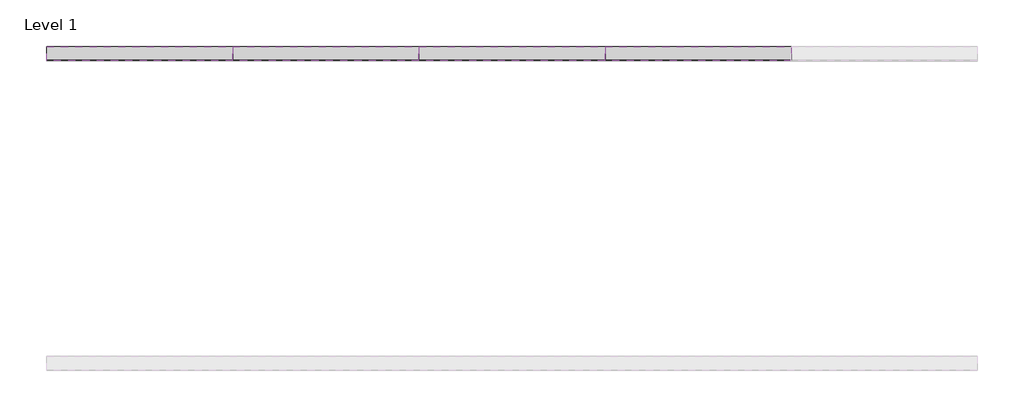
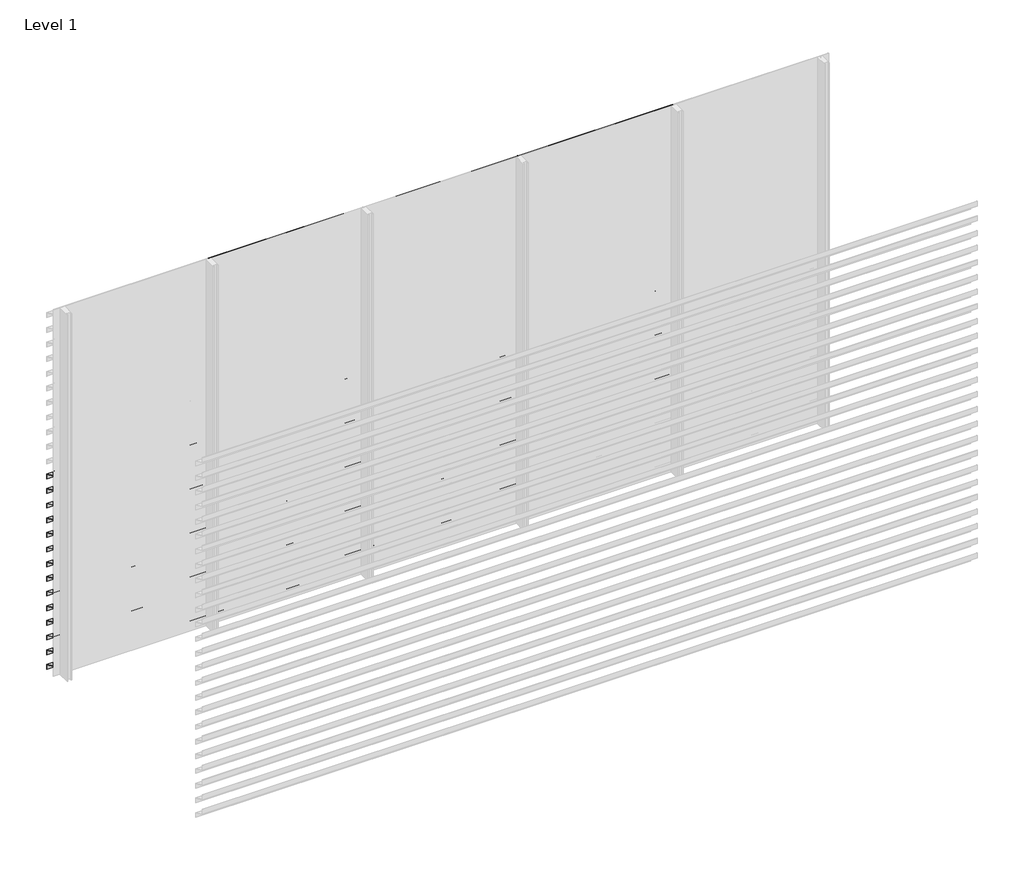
# One storey, part 31 of 46: 85 proxies.
"""IFC4 building model written with IfcOpenShell, lengths in millimetres."""

from ifc_helpers import new_model, si_unit, frame, origin, place, context, project, spatial, polyline, outline, extrude, element, save

model = new_model("IFC4")

# Units and contexts
model_context = context("Model", 3, world=origin())
ifc_project = project(units=[si_unit("LENGTHUNIT", "METRE", prefix="MILLI")], contexts=[model_context])

# Site, building, storey
site = spatial("IfcSite", under=ifc_project)
building = spatial("IfcBuilding", under=site)
storey = spatial("IfcBuildingStorey", under=building, Name="Level 1", Elevation=0.0)

# Proxies
placement = place(None, origin())
element("IfcBuildingElementProxy", 1, Name="Wall Sweeps", at=placement, inside=storey, context=model_context, shape_type="SweptSolid", body=[
    extrude(outline(polyline([(51573.0540136, 1600.0), (51573.0540136, 1560.0), (51571.0540136, 1561.349017), (51571.0540136, 1598.7258595), (51483.0540136, 1639.7609334), (51483.0540136, 1680.0), (51485.0540136, 1680.0), (51485.0540136, 1641.0350739), (51573.0540136, 1600.0)])), frame((466.6208097, 0.0, 0.0), z_axis=(1.0, 0.0, 0.0), x_axis=(0.0, 1.0, 0.0)), (0.0, 0.0, 1.0), 1200.0000002),
])
element("IfcBuildingElementProxy", 2, Name="Wall Sweeps", at=placement, inside=storey, context=model_context, shape_type="SweptSolid", body=[
    extrude(outline(polyline([(51573.0540136, 1480.0), (51573.0540136, 1440.0), (51571.0540136, 1441.349017), (51571.0540136, 1478.7258595), (51483.0540136, 1519.7609334), (51483.0540136, 1560.0), (51485.0540136, 1560.0), (51485.0540136, 1521.0350739), (51573.0540136, 1480.0)])), frame((466.6208097, 0.0, 0.0), z_axis=(1.0, 0.0, 0.0), x_axis=(0.0, 1.0, 0.0)), (0.0, 0.0, 1.0), 1200.0000002),
])
element("IfcBuildingElementProxy", 3, Name="Wall Sweeps", at=placement, inside=storey, context=model_context, shape_type="SweptSolid", body=[
    extrude(outline(polyline([(51573.0540136, 1360.0), (51573.0540136, 1320.0), (51571.0540136, 1321.349017), (51571.0540136, 1358.7258595), (51483.0540136, 1399.7609334), (51483.0540136, 1440.0), (51485.0540136, 1440.0), (51485.0540136, 1401.0350739), (51573.0540136, 1360.0)])), frame((466.6208097, 0.0, 0.0), z_axis=(1.0, 0.0, 0.0), x_axis=(0.0, 1.0, 0.0)), (0.0, 0.0, 1.0), 1200.0000002),
])
element("IfcBuildingElementProxy", 4, Name="Wall Sweeps", at=placement, inside=storey, context=model_context, shape_type="SweptSolid", body=[
    extrude(outline(polyline([(51573.0540136, 1240.0), (51573.0540136, 1200.0), (51571.0540136, 1201.349017), (51571.0540136, 1238.7258595), (51483.0540136, 1279.7609334), (51483.0540136, 1320.0), (51485.0540136, 1320.0), (51485.0540136, 1281.0350739), (51573.0540136, 1240.0)])), frame((466.6208097, 0.0, 0.0), z_axis=(1.0, 0.0, 0.0), x_axis=(0.0, 1.0, 0.0)), (0.0, 0.0, 1.0), 1200.0000002),
])
element("IfcBuildingElementProxy", 5, Name="Wall Sweeps", at=placement, inside=storey, context=model_context, shape_type="SweptSolid", body=[
    extrude(outline(polyline([(51573.0540136, 1120.0), (51573.0540136, 1080.0), (51571.0540136, 1081.349017), (51571.0540136, 1118.7258595), (51483.0540136, 1159.7609334), (51483.0540136, 1200.0), (51485.0540136, 1200.0), (51485.0540136, 1161.0350739), (51573.0540136, 1120.0)])), frame((466.6208097, 0.0, 0.0), z_axis=(1.0, 0.0, 0.0), x_axis=(0.0, 1.0, 0.0)), (0.0, 0.0, 1.0), 1200.0000002),
])
element("IfcBuildingElementProxy", 6, Name="Wall Sweeps", at=placement, inside=storey, context=model_context, shape_type="SweptSolid", body=[
    extrude(outline(polyline([(51573.0540136, 1000.0), (51573.0540136, 960.0), (51571.0540136, 961.349017), (51571.0540136, 998.7258595), (51483.0540136, 1039.7609334), (51483.0540136, 1080.0), (51485.0540136, 1080.0), (51485.0540136, 1041.0350739), (51573.0540136, 1000.0)])), frame((466.6208097, 0.0, 0.0), z_axis=(1.0, 0.0, 0.0), x_axis=(0.0, 1.0, 0.0)), (0.0, 0.0, 1.0), 1200.0000002),
])
element("IfcBuildingElementProxy", 7, Name="Wall Sweeps", at=placement, inside=storey, context=model_context, shape_type="SweptSolid", body=[
    extrude(outline(polyline([(51573.0540136, 880.0), (51573.0540136, 840.0), (51571.0540136, 841.349017), (51571.0540136, 878.7258595), (51483.0540136, 919.7609334), (51483.0540136, 960.0), (51485.0540136, 960.0), (51485.0540136, 921.0350739), (51573.0540136, 880.0)])), frame((466.6208097, 0.0, 0.0), z_axis=(1.0, 0.0, 0.0), x_axis=(0.0, 1.0, 0.0)), (0.0, 0.0, 1.0), 1200.0000002),
])
element("IfcBuildingElementProxy", 8, Name="Wall Sweeps", at=placement, inside=storey, context=model_context, shape_type="SweptSolid", body=[
    extrude(outline(polyline([(51573.0540136, 760.0), (51573.0540136, 720.0), (51571.0540136, 721.349017), (51571.0540136, 758.7258595), (51483.0540136, 799.7609334), (51483.0540136, 840.0), (51485.0540136, 840.0), (51485.0540136, 801.0350739), (51573.0540136, 760.0)])), frame((466.6208097, 0.0, 0.0), z_axis=(1.0, 0.0, 0.0), x_axis=(0.0, 1.0, 0.0)), (0.0, 0.0, 1.0), 1200.0000002),
])
element("IfcBuildingElementProxy", 9, Name="Wall Sweeps", at=placement, inside=storey, context=model_context, shape_type="SweptSolid", body=[
    extrude(outline(polyline([(51573.0540136, 640.0), (51573.0540136, 600.0), (51571.0540136, 601.349017), (51571.0540136, 638.7258595), (51483.0540136, 679.7609334), (51483.0540136, 720.0), (51485.0540136, 720.0), (51485.0540136, 681.0350739), (51573.0540136, 640.0)])), frame((466.6208097, 0.0, 0.0), z_axis=(1.0, 0.0, 0.0), x_axis=(0.0, 1.0, 0.0)), (0.0, 0.0, 1.0), 1200.0000002),
])
element("IfcBuildingElementProxy", 10, Name="Wall Sweeps", at=placement, inside=storey, context=model_context, shape_type="SweptSolid", body=[
    extrude(outline(polyline([(51573.0540136, 520.0), (51573.0540136, 480.0), (51571.0540136, 481.349017), (51571.0540136, 518.7258595), (51483.0540136, 559.7609334), (51483.0540136, 600.0), (51485.0540136, 600.0), (51485.0540136, 561.0350739), (51573.0540136, 520.0)])), frame((466.6208097, 0.0, 0.0), z_axis=(1.0, 0.0, 0.0), x_axis=(0.0, 1.0, 0.0)), (0.0, 0.0, 1.0), 1200.0000002),
])
element("IfcBuildingElementProxy", 11, Name="Wall Sweeps", at=placement, inside=storey, context=model_context, shape_type="SweptSolid", body=[
    extrude(outline(polyline([(51573.0540136, 400.0), (51573.0540136, 360.0), (51571.0540136, 361.349017), (51571.0540136, 398.7258595), (51483.0540136, 439.7609334), (51483.0540136, 480.0), (51485.0540136, 480.0), (51485.0540136, 441.0350739), (51573.0540136, 400.0)])), frame((466.6208097, 0.0, 0.0), z_axis=(1.0, 0.0, 0.0), x_axis=(0.0, 1.0, 0.0)), (0.0, 0.0, 1.0), 1200.0000002),
])
element("IfcBuildingElementProxy", 12, Name="Wall Sweeps", at=placement, inside=storey, context=model_context, shape_type="SweptSolid", body=[
    extrude(outline(polyline([(51573.0540136, 280.0), (51573.0540136, 240.0), (51571.0540136, 241.349017), (51571.0540136, 278.7258595), (51483.0540136, 319.7609334), (51483.0540136, 360.0), (51485.0540136, 360.0), (51485.0540136, 321.0350739), (51573.0540136, 280.0)])), frame((466.6208097, 0.0, 0.0), z_axis=(1.0, 0.0, 0.0), x_axis=(0.0, 1.0, 0.0)), (0.0, 0.0, 1.0), 1200.0000002),
])
element("IfcBuildingElementProxy", 13, Name="Wall Sweeps", at=placement, inside=storey, context=model_context, shape_type="SweptSolid", body=[
    extrude(outline(polyline([(51573.0540136, 160.0), (51573.0540136, 120.0), (51571.0540136, 121.349017), (51571.0540136, 158.7258595), (51483.0540136, 199.7609334), (51483.0540136, 240.0), (51485.0540136, 240.0), (51485.0540136, 201.0350739), (51573.0540136, 160.0)])), frame((466.6208097, 0.0, 0.0), z_axis=(1.0, 0.0, 0.0), x_axis=(0.0, 1.0, 0.0)), (0.0, 0.0, 1.0), 1200.0000002),
])
element("IfcBuildingElementProxy", 14, Name="Wall Sweeps", at=placement, inside=storey, context=model_context, shape_type="SweptSolid", body=[
    extrude(outline(polyline([(51573.0540136, 40.0), (51573.0540136, 0.0), (51571.0540136, 1.349017), (51571.0540136, 38.7258595), (51483.0540136, 79.7609334), (51483.0540136, 120.0), (51485.0540136, 120.0), (51485.0540136, 81.0350739), (51573.0540136, 40.0)])), frame((466.6208097, 0.0, 0.0), z_axis=(1.0, 0.0, 0.0), x_axis=(0.0, 1.0, 0.0)), (0.0, 0.0, 1.0), 1200.0000002),
])
element("IfcBuildingElementProxy", 15, Name="Wall Sweeps", at=placement, inside=storey, context=model_context, shape_type="SweptSolid", body=[
    extrude(outline(polyline([(51573.0540136, 2920.0), (51573.0540136, 2880.0), (51571.0540136, 2881.349017), (51571.0540136, 2918.7258595), (51483.0540136, 2959.7609334), (51483.0540136, 3000.0), (51485.0540136, 3000.0), (51485.0540136, 2961.0350739), (51573.0540136, 2920.0)])), frame((1666.6208099, 0.0, 0.0), z_axis=(1.0, 0.0, 0.0), x_axis=(0.0, 1.0, 0.0)), (0.0, 0.0, 1.0), 1199.9999999),
])
element("IfcBuildingElementProxy", 16, Name="Wall Sweeps", at=placement, inside=storey, context=model_context, shape_type="SweptSolid", body=[
    extrude(outline(polyline([(51573.0540136, 2800.0), (51573.0540136, 2760.0), (51571.0540136, 2761.349017), (51571.0540136, 2798.7258595), (51483.0540136, 2839.7609334), (51483.0540136, 2880.0), (51485.0540136, 2880.0), (51485.0540136, 2841.0350739), (51573.0540136, 2800.0)])), frame((1666.6208099, 0.0, 0.0), z_axis=(1.0, 0.0, 0.0), x_axis=(0.0, 1.0, 0.0)), (0.0, 0.0, 1.0), 1199.9999999),
])
element("IfcBuildingElementProxy", 17, Name="Wall Sweeps", at=placement, inside=storey, context=model_context, shape_type="SweptSolid", body=[
    extrude(outline(polyline([(51573.0540136, 2680.0), (51573.0540136, 2640.0), (51571.0540136, 2641.349017), (51571.0540136, 2678.7258595), (51483.0540136, 2719.7609334), (51483.0540136, 2760.0), (51485.0540136, 2760.0), (51485.0540136, 2721.0350739), (51573.0540136, 2680.0)])), frame((1666.6208099, 0.0, 0.0), z_axis=(1.0, 0.0, 0.0), x_axis=(0.0, 1.0, 0.0)), (0.0, 0.0, 1.0), 1199.9999999),
])
element("IfcBuildingElementProxy", 18, Name="Wall Sweeps", at=placement, inside=storey, context=model_context, shape_type="SweptSolid", body=[
    extrude(outline(polyline([(51573.0540136, 2560.0), (51573.0540136, 2520.0), (51571.0540136, 2521.349017), (51571.0540136, 2558.7258595), (51483.0540136, 2599.7609334), (51483.0540136, 2640.0), (51485.0540136, 2640.0), (51485.0540136, 2601.0350739), (51573.0540136, 2560.0)])), frame((1666.6208099, 0.0, 0.0), z_axis=(1.0, 0.0, 0.0), x_axis=(0.0, 1.0, 0.0)), (0.0, 0.0, 1.0), 1199.9999999),
])
element("IfcBuildingElementProxy", 19, Name="Wall Sweeps", at=placement, inside=storey, context=model_context, shape_type="SweptSolid", body=[
    extrude(outline(polyline([(51573.0540136, 2440.0), (51573.0540136, 2400.0), (51571.0540136, 2401.349017), (51571.0540136, 2438.7258595), (51483.0540136, 2479.7609334), (51483.0540136, 2520.0), (51485.0540136, 2520.0), (51485.0540136, 2481.0350739), (51573.0540136, 2440.0)])), frame((1666.6208099, 0.0, 0.0), z_axis=(1.0, 0.0, 0.0), x_axis=(0.0, 1.0, 0.0)), (0.0, 0.0, 1.0), 1199.9999999),
])
element("IfcBuildingElementProxy", 20, Name="Wall Sweeps", at=placement, inside=storey, context=model_context, shape_type="SweptSolid", body=[
    extrude(outline(polyline([(51573.0540136, 2320.0), (51573.0540136, 2280.0), (51571.0540136, 2281.349017), (51571.0540136, 2318.7258595), (51483.0540136, 2359.7609334), (51483.0540136, 2400.0), (51485.0540136, 2400.0), (51485.0540136, 2361.0350739), (51573.0540136, 2320.0)])), frame((1666.6208099, 0.0, 0.0), z_axis=(1.0, 0.0, 0.0), x_axis=(0.0, 1.0, 0.0)), (0.0, 0.0, 1.0), 1199.9999999),
])
element("IfcBuildingElementProxy", 21, Name="Wall Sweeps", at=placement, inside=storey, context=model_context, shape_type="SweptSolid", body=[
    extrude(outline(polyline([(51573.0540136, 2200.0), (51573.0540136, 2160.0), (51571.0540136, 2161.349017), (51571.0540136, 2198.7258595), (51483.0540136, 2239.7609334), (51483.0540136, 2280.0), (51485.0540136, 2280.0), (51485.0540136, 2241.0350739), (51573.0540136, 2200.0)])), frame((1666.6208099, 0.0, 0.0), z_axis=(1.0, 0.0, 0.0), x_axis=(0.0, 1.0, 0.0)), (0.0, 0.0, 1.0), 1199.9999999),
])
element("IfcBuildingElementProxy", 22, Name="Wall Sweeps", at=placement, inside=storey, context=model_context, shape_type="SweptSolid", body=[
    extrude(outline(polyline([(51573.0540136, 2080.0), (51573.0540136, 2040.0), (51571.0540136, 2041.349017), (51571.0540136, 2078.7258595), (51483.0540136, 2119.7609334), (51483.0540136, 2160.0), (51485.0540136, 2160.0), (51485.0540136, 2121.0350739), (51573.0540136, 2080.0)])), frame((1666.6208099, 0.0, 0.0), z_axis=(1.0, 0.0, 0.0), x_axis=(0.0, 1.0, 0.0)), (0.0, 0.0, 1.0), 1199.9999999),
])
element("IfcBuildingElementProxy", 23, Name="Wall Sweeps", at=placement, inside=storey, context=model_context, shape_type="SweptSolid", body=[
    extrude(outline(polyline([(51573.0540136, 1960.0), (51573.0540136, 1920.0), (51571.0540136, 1921.349017), (51571.0540136, 1958.7258595), (51483.0540136, 1999.7609334), (51483.0540136, 2040.0), (51485.0540136, 2040.0), (51485.0540136, 2001.0350739), (51573.0540136, 1960.0)])), frame((1666.6208099, 0.0, 0.0), z_axis=(1.0, 0.0, 0.0), x_axis=(0.0, 1.0, 0.0)), (0.0, 0.0, 1.0), 1199.9999999),
])
element("IfcBuildingElementProxy", 24, Name="Wall Sweeps", at=placement, inside=storey, context=model_context, shape_type="SweptSolid", body=[
    extrude(outline(polyline([(51573.0540136, 1840.0), (51573.0540136, 1800.0), (51571.0540136, 1801.349017), (51571.0540136, 1838.7258595), (51483.0540136, 1879.7609334), (51483.0540136, 1920.0), (51485.0540136, 1920.0), (51485.0540136, 1881.0350739), (51573.0540136, 1840.0)])), frame((1666.6208099, 0.0, 0.0), z_axis=(1.0, 0.0, 0.0), x_axis=(0.0, 1.0, 0.0)), (0.0, 0.0, 1.0), 1199.9999999),
])
element("IfcBuildingElementProxy", 25, Name="Wall Sweeps", at=placement, inside=storey, context=model_context, shape_type="SweptSolid", body=[
    extrude(outline(polyline([(51573.0540136, 1720.0), (51573.0540136, 1680.0), (51571.0540136, 1681.349017), (51571.0540136, 1718.7258595), (51483.0540136, 1759.7609334), (51483.0540136, 1800.0), (51485.0540136, 1800.0), (51485.0540136, 1761.0350739), (51573.0540136, 1720.0)])), frame((1666.6208099, 0.0, 0.0), z_axis=(1.0, 0.0, 0.0), x_axis=(0.0, 1.0, 0.0)), (0.0, 0.0, 1.0), 1199.9999999),
])
element("IfcBuildingElementProxy", 26, Name="Wall Sweeps", at=placement, inside=storey, context=model_context, shape_type="SweptSolid", body=[
    extrude(outline(polyline([(51573.0540136, 1600.0), (51573.0540136, 1560.0), (51571.0540136, 1561.349017), (51571.0540136, 1598.7258595), (51483.0540136, 1639.7609334), (51483.0540136, 1680.0), (51485.0540136, 1680.0), (51485.0540136, 1641.0350739), (51573.0540136, 1600.0)])), frame((1666.6208099, 0.0, 0.0), z_axis=(1.0, 0.0, 0.0), x_axis=(0.0, 1.0, 0.0)), (0.0, 0.0, 1.0), 1199.9999999),
])
element("IfcBuildingElementProxy", 27, Name="Wall Sweeps", at=placement, inside=storey, context=model_context, shape_type="SweptSolid", body=[
    extrude(outline(polyline([(51573.0540136, 1480.0), (51573.0540136, 1440.0), (51571.0540136, 1441.349017), (51571.0540136, 1478.7258595), (51483.0540136, 1519.7609334), (51483.0540136, 1560.0), (51485.0540136, 1560.0), (51485.0540136, 1521.0350739), (51573.0540136, 1480.0)])), frame((1666.6208099, 0.0, 0.0), z_axis=(1.0, 0.0, 0.0), x_axis=(0.0, 1.0, 0.0)), (0.0, 0.0, 1.0), 1199.9999999),
])
element("IfcBuildingElementProxy", 28, Name="Wall Sweeps", at=placement, inside=storey, context=model_context, shape_type="SweptSolid", body=[
    extrude(outline(polyline([(51573.0540136, 1360.0), (51573.0540136, 1320.0), (51571.0540136, 1321.349017), (51571.0540136, 1358.7258595), (51483.0540136, 1399.7609334), (51483.0540136, 1440.0), (51485.0540136, 1440.0), (51485.0540136, 1401.0350739), (51573.0540136, 1360.0)])), frame((1666.6208099, 0.0, 0.0), z_axis=(1.0, 0.0, 0.0), x_axis=(0.0, 1.0, 0.0)), (0.0, 0.0, 1.0), 1199.9999999),
])
element("IfcBuildingElementProxy", 29, Name="Wall Sweeps", at=placement, inside=storey, context=model_context, shape_type="SweptSolid", body=[
    extrude(outline(polyline([(51573.0540136, 1240.0), (51573.0540136, 1200.0), (51571.0540136, 1201.349017), (51571.0540136, 1238.7258595), (51483.0540136, 1279.7609334), (51483.0540136, 1320.0), (51485.0540136, 1320.0), (51485.0540136, 1281.0350739), (51573.0540136, 1240.0)])), frame((1666.6208099, 0.0, 0.0), z_axis=(1.0, 0.0, 0.0), x_axis=(0.0, 1.0, 0.0)), (0.0, 0.0, 1.0), 1199.9999999),
])
element("IfcBuildingElementProxy", 30, Name="Wall Sweeps", at=placement, inside=storey, context=model_context, shape_type="SweptSolid", body=[
    extrude(outline(polyline([(51573.0540136, 1120.0), (51573.0540136, 1080.0), (51571.0540136, 1081.349017), (51571.0540136, 1118.7258595), (51483.0540136, 1159.7609334), (51483.0540136, 1200.0), (51485.0540136, 1200.0), (51485.0540136, 1161.0350739), (51573.0540136, 1120.0)])), frame((1666.6208099, 0.0, 0.0), z_axis=(1.0, 0.0, 0.0), x_axis=(0.0, 1.0, 0.0)), (0.0, 0.0, 1.0), 1199.9999999),
])
element("IfcBuildingElementProxy", 31, Name="Wall Sweeps", at=placement, inside=storey, context=model_context, shape_type="SweptSolid", body=[
    extrude(outline(polyline([(51573.0540136, 1000.0), (51573.0540136, 960.0), (51571.0540136, 961.349017), (51571.0540136, 998.7258595), (51483.0540136, 1039.7609334), (51483.0540136, 1080.0), (51485.0540136, 1080.0), (51485.0540136, 1041.0350739), (51573.0540136, 1000.0)])), frame((1666.6208099, 0.0, 0.0), z_axis=(1.0, 0.0, 0.0), x_axis=(0.0, 1.0, 0.0)), (0.0, 0.0, 1.0), 1199.9999999),
])
element("IfcBuildingElementProxy", 32, Name="Wall Sweeps", at=placement, inside=storey, context=model_context, shape_type="SweptSolid", body=[
    extrude(outline(polyline([(51573.0540136, 880.0), (51573.0540136, 840.0), (51571.0540136, 841.349017), (51571.0540136, 878.7258595), (51483.0540136, 919.7609334), (51483.0540136, 960.0), (51485.0540136, 960.0), (51485.0540136, 921.0350739), (51573.0540136, 880.0)])), frame((1666.6208099, 0.0, 0.0), z_axis=(1.0, 0.0, 0.0), x_axis=(0.0, 1.0, 0.0)), (0.0, 0.0, 1.0), 1199.9999999),
])
element("IfcBuildingElementProxy", 33, Name="Wall Sweeps", at=placement, inside=storey, context=model_context, shape_type="SweptSolid", body=[
    extrude(outline(polyline([(51573.0540136, 760.0), (51573.0540136, 720.0), (51571.0540136, 721.349017), (51571.0540136, 758.7258595), (51483.0540136, 799.7609334), (51483.0540136, 840.0), (51485.0540136, 840.0), (51485.0540136, 801.0350739), (51573.0540136, 760.0)])), frame((1666.6208099, 0.0, 0.0), z_axis=(1.0, 0.0, 0.0), x_axis=(0.0, 1.0, 0.0)), (0.0, 0.0, 1.0), 1199.9999999),
])
element("IfcBuildingElementProxy", 34, Name="Wall Sweeps", at=placement, inside=storey, context=model_context, shape_type="SweptSolid", body=[
    extrude(outline(polyline([(51573.0540136, 640.0), (51573.0540136, 600.0), (51571.0540136, 601.349017), (51571.0540136, 638.7258595), (51483.0540136, 679.7609334), (51483.0540136, 720.0), (51485.0540136, 720.0), (51485.0540136, 681.0350739), (51573.0540136, 640.0)])), frame((1666.6208099, 0.0, 0.0), z_axis=(1.0, 0.0, 0.0), x_axis=(0.0, 1.0, 0.0)), (0.0, 0.0, 1.0), 1199.9999999),
])
element("IfcBuildingElementProxy", 35, Name="Wall Sweeps", at=placement, inside=storey, context=model_context, shape_type="SweptSolid", body=[
    extrude(outline(polyline([(51573.0540136, 520.0), (51573.0540136, 480.0), (51571.0540136, 481.349017), (51571.0540136, 518.7258595), (51483.0540136, 559.7609334), (51483.0540136, 600.0), (51485.0540136, 600.0), (51485.0540136, 561.0350739), (51573.0540136, 520.0)])), frame((1666.6208099, 0.0, 0.0), z_axis=(1.0, 0.0, 0.0), x_axis=(0.0, 1.0, 0.0)), (0.0, 0.0, 1.0), 1199.9999999),
])
element("IfcBuildingElementProxy", 36, Name="Wall Sweeps", at=placement, inside=storey, context=model_context, shape_type="SweptSolid", body=[
    extrude(outline(polyline([(51573.0540136, 400.0), (51573.0540136, 360.0), (51571.0540136, 361.349017), (51571.0540136, 398.7258595), (51483.0540136, 439.7609334), (51483.0540136, 480.0), (51485.0540136, 480.0), (51485.0540136, 441.0350739), (51573.0540136, 400.0)])), frame((1666.6208099, 0.0, 0.0), z_axis=(1.0, 0.0, 0.0), x_axis=(0.0, 1.0, 0.0)), (0.0, 0.0, 1.0), 1199.9999999),
])
element("IfcBuildingElementProxy", 37, Name="Wall Sweeps", at=placement, inside=storey, context=model_context, shape_type="SweptSolid", body=[
    extrude(outline(polyline([(51573.0540136, 280.0), (51573.0540136, 240.0), (51571.0540136, 241.349017), (51571.0540136, 278.7258595), (51483.0540136, 319.7609334), (51483.0540136, 360.0), (51485.0540136, 360.0), (51485.0540136, 321.0350739), (51573.0540136, 280.0)])), frame((1666.6208099, 0.0, 0.0), z_axis=(1.0, 0.0, 0.0), x_axis=(0.0, 1.0, 0.0)), (0.0, 0.0, 1.0), 1199.9999999),
])
element("IfcBuildingElementProxy", 38, Name="Wall Sweeps", at=placement, inside=storey, context=model_context, shape_type="SweptSolid", body=[
    extrude(outline(polyline([(51573.0540136, 160.0), (51573.0540136, 120.0), (51571.0540136, 121.349017), (51571.0540136, 158.7258595), (51483.0540136, 199.7609334), (51483.0540136, 240.0), (51485.0540136, 240.0), (51485.0540136, 201.0350739), (51573.0540136, 160.0)])), frame((1666.6208099, 0.0, 0.0), z_axis=(1.0, 0.0, 0.0), x_axis=(0.0, 1.0, 0.0)), (0.0, 0.0, 1.0), 1199.9999999),
])
element("IfcBuildingElementProxy", 39, Name="Wall Sweeps", at=placement, inside=storey, context=model_context, shape_type="SweptSolid", body=[
    extrude(outline(polyline([(51573.0540136, 40.0), (51573.0540136, 0.0), (51571.0540136, 1.349017), (51571.0540136, 38.7258595), (51483.0540136, 79.7609334), (51483.0540136, 120.0), (51485.0540136, 120.0), (51485.0540136, 81.0350739), (51573.0540136, 40.0)])), frame((1666.6208099, 0.0, 0.0), z_axis=(1.0, 0.0, 0.0), x_axis=(0.0, 1.0, 0.0)), (0.0, 0.0, 1.0), 1199.9999999),
])
element("IfcBuildingElementProxy", 40, Name="Wall Sweeps", at=placement, inside=storey, context=model_context, shape_type="SweptSolid", body=[
    extrude(outline(polyline([(51573.0540136, 2920.0), (51573.0540136, 2880.0), (51571.0540136, 2881.349017), (51571.0540136, 2918.7258595), (51483.0540136, 2959.7609334), (51483.0540136, 3000.0), (51485.0540136, 3000.0), (51485.0540136, 2961.0350739), (51573.0540136, 2920.0)])), frame((2866.6208097, 0.0, 0.0), z_axis=(1.0, 0.0, 0.0), x_axis=(0.0, 1.0, 0.0)), (0.0, 0.0, 1.0), 1199.9999999),
])
element("IfcBuildingElementProxy", 41, Name="Wall Sweeps", at=placement, inside=storey, context=model_context, shape_type="SweptSolid", body=[
    extrude(outline(polyline([(51573.0540136, 2800.0), (51573.0540136, 2760.0), (51571.0540136, 2761.349017), (51571.0540136, 2798.7258595), (51483.0540136, 2839.7609334), (51483.0540136, 2880.0), (51485.0540136, 2880.0), (51485.0540136, 2841.0350739), (51573.0540136, 2800.0)])), frame((2866.6208097, 0.0, 0.0), z_axis=(1.0, 0.0, 0.0), x_axis=(0.0, 1.0, 0.0)), (0.0, 0.0, 1.0), 1199.9999999),
])
element("IfcBuildingElementProxy", 42, Name="Wall Sweeps", at=placement, inside=storey, context=model_context, shape_type="SweptSolid", body=[
    extrude(outline(polyline([(51573.0540136, 2680.0), (51573.0540136, 2640.0), (51571.0540136, 2641.349017), (51571.0540136, 2678.7258595), (51483.0540136, 2719.7609334), (51483.0540136, 2760.0), (51485.0540136, 2760.0), (51485.0540136, 2721.0350739), (51573.0540136, 2680.0)])), frame((2866.6208097, 0.0, 0.0), z_axis=(1.0, 0.0, 0.0), x_axis=(0.0, 1.0, 0.0)), (0.0, 0.0, 1.0), 1199.9999999),
])
element("IfcBuildingElementProxy", 43, Name="Wall Sweeps", at=placement, inside=storey, context=model_context, shape_type="SweptSolid", body=[
    extrude(outline(polyline([(51573.0540136, 2560.0), (51573.0540136, 2520.0), (51571.0540136, 2521.349017), (51571.0540136, 2558.7258595), (51483.0540136, 2599.7609334), (51483.0540136, 2640.0), (51485.0540136, 2640.0), (51485.0540136, 2601.0350739), (51573.0540136, 2560.0)])), frame((2866.6208097, 0.0, 0.0), z_axis=(1.0, 0.0, 0.0), x_axis=(0.0, 1.0, 0.0)), (0.0, 0.0, 1.0), 1199.9999999),
])
element("IfcBuildingElementProxy", 44, Name="Wall Sweeps", at=placement, inside=storey, context=model_context, shape_type="SweptSolid", body=[
    extrude(outline(polyline([(51573.0540136, 2440.0), (51573.0540136, 2400.0), (51571.0540136, 2401.349017), (51571.0540136, 2438.7258595), (51483.0540136, 2479.7609334), (51483.0540136, 2520.0), (51485.0540136, 2520.0), (51485.0540136, 2481.0350739), (51573.0540136, 2440.0)])), frame((2866.6208097, 0.0, 0.0), z_axis=(1.0, 0.0, 0.0), x_axis=(0.0, 1.0, 0.0)), (0.0, 0.0, 1.0), 1199.9999999),
])
element("IfcBuildingElementProxy", 45, Name="Wall Sweeps", at=placement, inside=storey, context=model_context, shape_type="SweptSolid", body=[
    extrude(outline(polyline([(51573.0540136, 2320.0), (51573.0540136, 2280.0), (51571.0540136, 2281.349017), (51571.0540136, 2318.7258595), (51483.0540136, 2359.7609334), (51483.0540136, 2400.0), (51485.0540136, 2400.0), (51485.0540136, 2361.0350739), (51573.0540136, 2320.0)])), frame((2866.6208097, 0.0, 0.0), z_axis=(1.0, 0.0, 0.0), x_axis=(0.0, 1.0, 0.0)), (0.0, 0.0, 1.0), 1199.9999999),
])
element("IfcBuildingElementProxy", 46, Name="Wall Sweeps", at=placement, inside=storey, context=model_context, shape_type="SweptSolid", body=[
    extrude(outline(polyline([(51573.0540136, 2200.0), (51573.0540136, 2160.0), (51571.0540136, 2161.349017), (51571.0540136, 2198.7258595), (51483.0540136, 2239.7609334), (51483.0540136, 2280.0), (51485.0540136, 2280.0), (51485.0540136, 2241.0350739), (51573.0540136, 2200.0)])), frame((2866.6208097, 0.0, 0.0), z_axis=(1.0, 0.0, 0.0), x_axis=(0.0, 1.0, 0.0)), (0.0, 0.0, 1.0), 1199.9999999),
])
element("IfcBuildingElementProxy", 47, Name="Wall Sweeps", at=placement, inside=storey, context=model_context, shape_type="SweptSolid", body=[
    extrude(outline(polyline([(51573.0540136, 2080.0), (51573.0540136, 2040.0), (51571.0540136, 2041.349017), (51571.0540136, 2078.7258595), (51483.0540136, 2119.7609334), (51483.0540136, 2160.0), (51485.0540136, 2160.0), (51485.0540136, 2121.0350739), (51573.0540136, 2080.0)])), frame((2866.6208097, 0.0, 0.0), z_axis=(1.0, 0.0, 0.0), x_axis=(0.0, 1.0, 0.0)), (0.0, 0.0, 1.0), 1199.9999999),
])
element("IfcBuildingElementProxy", 48, Name="Wall Sweeps", at=placement, inside=storey, context=model_context, shape_type="SweptSolid", body=[
    extrude(outline(polyline([(51573.0540136, 1960.0), (51573.0540136, 1920.0), (51571.0540136, 1921.349017), (51571.0540136, 1958.7258595), (51483.0540136, 1999.7609334), (51483.0540136, 2040.0), (51485.0540136, 2040.0), (51485.0540136, 2001.0350739), (51573.0540136, 1960.0)])), frame((2866.6208097, 0.0, 0.0), z_axis=(1.0, 0.0, 0.0), x_axis=(0.0, 1.0, 0.0)), (0.0, 0.0, 1.0), 1199.9999999),
])
element("IfcBuildingElementProxy", 49, Name="Wall Sweeps", at=placement, inside=storey, context=model_context, shape_type="SweptSolid", body=[
    extrude(outline(polyline([(51573.0540136, 1840.0), (51573.0540136, 1800.0), (51571.0540136, 1801.349017), (51571.0540136, 1838.7258595), (51483.0540136, 1879.7609334), (51483.0540136, 1920.0), (51485.0540136, 1920.0), (51485.0540136, 1881.0350739), (51573.0540136, 1840.0)])), frame((2866.6208097, 0.0, 0.0), z_axis=(1.0, 0.0, 0.0), x_axis=(0.0, 1.0, 0.0)), (0.0, 0.0, 1.0), 1199.9999999),
])
element("IfcBuildingElementProxy", 50, Name="Wall Sweeps", at=placement, inside=storey, context=model_context, shape_type="SweptSolid", body=[
    extrude(outline(polyline([(51573.0540136, 1720.0), (51573.0540136, 1680.0), (51571.0540136, 1681.349017), (51571.0540136, 1718.7258595), (51483.0540136, 1759.7609334), (51483.0540136, 1800.0), (51485.0540136, 1800.0), (51485.0540136, 1761.0350739), (51573.0540136, 1720.0)])), frame((2866.6208097, 0.0, 0.0), z_axis=(1.0, 0.0, 0.0), x_axis=(0.0, 1.0, 0.0)), (0.0, 0.0, 1.0), 1199.9999999),
])
element("IfcBuildingElementProxy", 51, Name="Wall Sweeps", at=placement, inside=storey, context=model_context, shape_type="SweptSolid", body=[
    extrude(outline(polyline([(51573.0540136, 1600.0), (51573.0540136, 1560.0), (51571.0540136, 1561.349017), (51571.0540136, 1598.7258595), (51483.0540136, 1639.7609334), (51483.0540136, 1680.0), (51485.0540136, 1680.0), (51485.0540136, 1641.0350739), (51573.0540136, 1600.0)])), frame((2866.6208097, 0.0, 0.0), z_axis=(1.0, 0.0, 0.0), x_axis=(0.0, 1.0, 0.0)), (0.0, 0.0, 1.0), 1199.9999999),
])
element("IfcBuildingElementProxy", 52, Name="Wall Sweeps", at=placement, inside=storey, context=model_context, shape_type="SweptSolid", body=[
    extrude(outline(polyline([(51573.0540136, 1480.0), (51573.0540136, 1440.0), (51571.0540136, 1441.349017), (51571.0540136, 1478.7258595), (51483.0540136, 1519.7609334), (51483.0540136, 1560.0), (51485.0540136, 1560.0), (51485.0540136, 1521.0350739), (51573.0540136, 1480.0)])), frame((2866.6208097, 0.0, 0.0), z_axis=(1.0, 0.0, 0.0), x_axis=(0.0, 1.0, 0.0)), (0.0, 0.0, 1.0), 1199.9999999),
])
element("IfcBuildingElementProxy", 53, Name="Wall Sweeps", at=placement, inside=storey, context=model_context, shape_type="SweptSolid", body=[
    extrude(outline(polyline([(51573.0540136, 1360.0), (51573.0540136, 1320.0), (51571.0540136, 1321.349017), (51571.0540136, 1358.7258595), (51483.0540136, 1399.7609334), (51483.0540136, 1440.0), (51485.0540136, 1440.0), (51485.0540136, 1401.0350739), (51573.0540136, 1360.0)])), frame((2866.6208097, 0.0, 0.0), z_axis=(1.0, 0.0, 0.0), x_axis=(0.0, 1.0, 0.0)), (0.0, 0.0, 1.0), 1199.9999999),
])
element("IfcBuildingElementProxy", 54, Name="Wall Sweeps", at=placement, inside=storey, context=model_context, shape_type="SweptSolid", body=[
    extrude(outline(polyline([(51573.0540136, 1240.0), (51573.0540136, 1200.0), (51571.0540136, 1201.349017), (51571.0540136, 1238.7258595), (51483.0540136, 1279.7609334), (51483.0540136, 1320.0), (51485.0540136, 1320.0), (51485.0540136, 1281.0350739), (51573.0540136, 1240.0)])), frame((2866.6208097, 0.0, 0.0), z_axis=(1.0, 0.0, 0.0), x_axis=(0.0, 1.0, 0.0)), (0.0, 0.0, 1.0), 1199.9999999),
])
element("IfcBuildingElementProxy", 55, Name="Wall Sweeps", at=placement, inside=storey, context=model_context, shape_type="SweptSolid", body=[
    extrude(outline(polyline([(51573.0540136, 1120.0), (51573.0540136, 1080.0), (51571.0540136, 1081.349017), (51571.0540136, 1118.7258595), (51483.0540136, 1159.7609334), (51483.0540136, 1200.0), (51485.0540136, 1200.0), (51485.0540136, 1161.0350739), (51573.0540136, 1120.0)])), frame((2866.6208097, 0.0, 0.0), z_axis=(1.0, 0.0, 0.0), x_axis=(0.0, 1.0, 0.0)), (0.0, 0.0, 1.0), 1199.9999999),
])
element("IfcBuildingElementProxy", 56, Name="Wall Sweeps", at=placement, inside=storey, context=model_context, shape_type="SweptSolid", body=[
    extrude(outline(polyline([(51573.0540136, 1000.0), (51573.0540136, 960.0), (51571.0540136, 961.349017), (51571.0540136, 998.7258595), (51483.0540136, 1039.7609334), (51483.0540136, 1080.0), (51485.0540136, 1080.0), (51485.0540136, 1041.0350739), (51573.0540136, 1000.0)])), frame((2866.6208097, 0.0, 0.0), z_axis=(1.0, 0.0, 0.0), x_axis=(0.0, 1.0, 0.0)), (0.0, 0.0, 1.0), 1199.9999999),
])
element("IfcBuildingElementProxy", 57, Name="Wall Sweeps", at=placement, inside=storey, context=model_context, shape_type="SweptSolid", body=[
    extrude(outline(polyline([(51573.0540136, 880.0), (51573.0540136, 840.0), (51571.0540136, 841.349017), (51571.0540136, 878.7258595), (51483.0540136, 919.7609334), (51483.0540136, 960.0), (51485.0540136, 960.0), (51485.0540136, 921.0350739), (51573.0540136, 880.0)])), frame((2866.6208097, 0.0, 0.0), z_axis=(1.0, 0.0, 0.0), x_axis=(0.0, 1.0, 0.0)), (0.0, 0.0, 1.0), 1199.9999999),
])
element("IfcBuildingElementProxy", 58, Name="Wall Sweeps", at=placement, inside=storey, context=model_context, shape_type="SweptSolid", body=[
    extrude(outline(polyline([(51573.0540136, 760.0), (51573.0540136, 720.0), (51571.0540136, 721.349017), (51571.0540136, 758.7258595), (51483.0540136, 799.7609334), (51483.0540136, 840.0), (51485.0540136, 840.0), (51485.0540136, 801.0350739), (51573.0540136, 760.0)])), frame((2866.6208097, 0.0, 0.0), z_axis=(1.0, 0.0, 0.0), x_axis=(0.0, 1.0, 0.0)), (0.0, 0.0, 1.0), 1199.9999999),
])
element("IfcBuildingElementProxy", 59, Name="Wall Sweeps", at=placement, inside=storey, context=model_context, shape_type="SweptSolid", body=[
    extrude(outline(polyline([(51573.0540136, 640.0), (51573.0540136, 600.0), (51571.0540136, 601.349017), (51571.0540136, 638.7258595), (51483.0540136, 679.7609334), (51483.0540136, 720.0), (51485.0540136, 720.0), (51485.0540136, 681.0350739), (51573.0540136, 640.0)])), frame((2866.6208097, 0.0, 0.0), z_axis=(1.0, 0.0, 0.0), x_axis=(0.0, 1.0, 0.0)), (0.0, 0.0, 1.0), 1199.9999999),
])
element("IfcBuildingElementProxy", 60, Name="Wall Sweeps", at=placement, inside=storey, context=model_context, shape_type="SweptSolid", body=[
    extrude(outline(polyline([(51573.0540136, 520.0), (51573.0540136, 480.0), (51571.0540136, 481.349017), (51571.0540136, 518.7258595), (51483.0540136, 559.7609334), (51483.0540136, 600.0), (51485.0540136, 600.0), (51485.0540136, 561.0350739), (51573.0540136, 520.0)])), frame((2866.6208097, 0.0, 0.0), z_axis=(1.0, 0.0, 0.0), x_axis=(0.0, 1.0, 0.0)), (0.0, 0.0, 1.0), 1199.9999999),
])
element("IfcBuildingElementProxy", 61, Name="Wall Sweeps", at=placement, inside=storey, context=model_context, shape_type="SweptSolid", body=[
    extrude(outline(polyline([(51573.0540136, 400.0), (51573.0540136, 360.0), (51571.0540136, 361.349017), (51571.0540136, 398.7258595), (51483.0540136, 439.7609334), (51483.0540136, 480.0), (51485.0540136, 480.0), (51485.0540136, 441.0350739), (51573.0540136, 400.0)])), frame((2866.6208097, 0.0, 0.0), z_axis=(1.0, 0.0, 0.0), x_axis=(0.0, 1.0, 0.0)), (0.0, 0.0, 1.0), 1199.9999999),
])
element("IfcBuildingElementProxy", 62, Name="Wall Sweeps", at=placement, inside=storey, context=model_context, shape_type="SweptSolid", body=[
    extrude(outline(polyline([(51573.0540136, 280.0), (51573.0540136, 240.0), (51571.0540136, 241.349017), (51571.0540136, 278.7258595), (51483.0540136, 319.7609334), (51483.0540136, 360.0), (51485.0540136, 360.0), (51485.0540136, 321.0350739), (51573.0540136, 280.0)])), frame((2866.6208097, 0.0, 0.0), z_axis=(1.0, 0.0, 0.0), x_axis=(0.0, 1.0, 0.0)), (0.0, 0.0, 1.0), 1199.9999999),
])
element("IfcBuildingElementProxy", 63, Name="Wall Sweeps", at=placement, inside=storey, context=model_context, shape_type="SweptSolid", body=[
    extrude(outline(polyline([(51573.0540136, 160.0), (51573.0540136, 120.0), (51571.0540136, 121.349017), (51571.0540136, 158.7258595), (51483.0540136, 199.7609334), (51483.0540136, 240.0), (51485.0540136, 240.0), (51485.0540136, 201.0350739), (51573.0540136, 160.0)])), frame((2866.6208097, 0.0, 0.0), z_axis=(1.0, 0.0, 0.0), x_axis=(0.0, 1.0, 0.0)), (0.0, 0.0, 1.0), 1199.9999999),
])
element("IfcBuildingElementProxy", 64, Name="Wall Sweeps", at=placement, inside=storey, context=model_context, shape_type="SweptSolid", body=[
    extrude(outline(polyline([(51573.0540136, 40.0), (51573.0540136, 0.0), (51571.0540136, 1.349017), (51571.0540136, 38.7258595), (51483.0540136, 79.7609334), (51483.0540136, 120.0), (51485.0540136, 120.0), (51485.0540136, 81.0350739), (51573.0540136, 40.0)])), frame((2866.6208097, 0.0, 0.0), z_axis=(1.0, 0.0, 0.0), x_axis=(0.0, 1.0, 0.0)), (0.0, 0.0, 1.0), 1199.9999999),
])
element("IfcBuildingElementProxy", 65, Name="Wall Sweeps", at=placement, inside=storey, context=model_context, shape_type="SweptSolid", body=[
    extrude(outline(polyline([(51573.0540136, 2920.0), (51573.0540136, 2880.0), (51571.0540136, 2881.349017), (51571.0540136, 2918.7258595), (51483.0540136, 2959.7609334), (51483.0540136, 3000.0), (51485.0540136, 3000.0), (51485.0540136, 2961.0350739), (51573.0540136, 2920.0)])), frame((4066.6208096, 0.0, 0.0), z_axis=(1.0, 0.0, 0.0), x_axis=(0.0, 1.0, 0.0)), (0.0, 0.0, 1.0), 1199.9999999),
])
element("IfcBuildingElementProxy", 66, Name="Wall Sweeps", at=placement, inside=storey, context=model_context, shape_type="SweptSolid", body=[
    extrude(outline(polyline([(51573.0540136, 2800.0), (51573.0540136, 2760.0), (51571.0540136, 2761.349017), (51571.0540136, 2798.7258595), (51483.0540136, 2839.7609334), (51483.0540136, 2880.0), (51485.0540136, 2880.0), (51485.0540136, 2841.0350739), (51573.0540136, 2800.0)])), frame((4066.6208096, 0.0, 0.0), z_axis=(1.0, 0.0, 0.0), x_axis=(0.0, 1.0, 0.0)), (0.0, 0.0, 1.0), 1199.9999999),
])
element("IfcBuildingElementProxy", 67, Name="Wall Sweeps", at=placement, inside=storey, context=model_context, shape_type="SweptSolid", body=[
    extrude(outline(polyline([(51573.0540136, 2680.0), (51573.0540136, 2640.0), (51571.0540136, 2641.349017), (51571.0540136, 2678.7258595), (51483.0540136, 2719.7609334), (51483.0540136, 2760.0), (51485.0540136, 2760.0), (51485.0540136, 2721.0350739), (51573.0540136, 2680.0)])), frame((4066.6208096, 0.0, 0.0), z_axis=(1.0, 0.0, 0.0), x_axis=(0.0, 1.0, 0.0)), (0.0, 0.0, 1.0), 1199.9999999),
])
element("IfcBuildingElementProxy", 68, Name="Wall Sweeps", at=placement, inside=storey, context=model_context, shape_type="SweptSolid", body=[
    extrude(outline(polyline([(51573.0540136, 2560.0), (51573.0540136, 2520.0), (51571.0540136, 2521.349017), (51571.0540136, 2558.7258595), (51483.0540136, 2599.7609334), (51483.0540136, 2640.0), (51485.0540136, 2640.0), (51485.0540136, 2601.0350739), (51573.0540136, 2560.0)])), frame((4066.6208096, 0.0, 0.0), z_axis=(1.0, 0.0, 0.0), x_axis=(0.0, 1.0, 0.0)), (0.0, 0.0, 1.0), 1199.9999999),
])
element("IfcBuildingElementProxy", 69, Name="Wall Sweeps", at=placement, inside=storey, context=model_context, shape_type="SweptSolid", body=[
    extrude(outline(polyline([(51573.0540136, 2440.0), (51573.0540136, 2400.0), (51571.0540136, 2401.349017), (51571.0540136, 2438.7258595), (51483.0540136, 2479.7609334), (51483.0540136, 2520.0), (51485.0540136, 2520.0), (51485.0540136, 2481.0350739), (51573.0540136, 2440.0)])), frame((4066.6208096, 0.0, 0.0), z_axis=(1.0, 0.0, 0.0), x_axis=(0.0, 1.0, 0.0)), (0.0, 0.0, 1.0), 1199.9999999),
])
element("IfcBuildingElementProxy", 70, Name="Wall Sweeps", at=placement, inside=storey, context=model_context, shape_type="SweptSolid", body=[
    extrude(outline(polyline([(51573.0540136, 2320.0), (51573.0540136, 2280.0), (51571.0540136, 2281.349017), (51571.0540136, 2318.7258595), (51483.0540136, 2359.7609334), (51483.0540136, 2400.0), (51485.0540136, 2400.0), (51485.0540136, 2361.0350739), (51573.0540136, 2320.0)])), frame((4066.6208096, 0.0, 0.0), z_axis=(1.0, 0.0, 0.0), x_axis=(0.0, 1.0, 0.0)), (0.0, 0.0, 1.0), 1199.9999999),
])
element("IfcBuildingElementProxy", 71, Name="Wall Sweeps", at=placement, inside=storey, context=model_context, shape_type="SweptSolid", body=[
    extrude(outline(polyline([(51573.0540136, 2200.0), (51573.0540136, 2160.0), (51571.0540136, 2161.349017), (51571.0540136, 2198.7258595), (51483.0540136, 2239.7609334), (51483.0540136, 2280.0), (51485.0540136, 2280.0), (51485.0540136, 2241.0350739), (51573.0540136, 2200.0)])), frame((4066.6208096, 0.0, 0.0), z_axis=(1.0, 0.0, 0.0), x_axis=(0.0, 1.0, 0.0)), (0.0, 0.0, 1.0), 1199.9999999),
])
element("IfcBuildingElementProxy", 72, Name="Wall Sweeps", at=placement, inside=storey, context=model_context, shape_type="SweptSolid", body=[
    extrude(outline(polyline([(51573.0540136, 2080.0), (51573.0540136, 2040.0), (51571.0540136, 2041.349017), (51571.0540136, 2078.7258595), (51483.0540136, 2119.7609334), (51483.0540136, 2160.0), (51485.0540136, 2160.0), (51485.0540136, 2121.0350739), (51573.0540136, 2080.0)])), frame((4066.6208096, 0.0, 0.0), z_axis=(1.0, 0.0, 0.0), x_axis=(0.0, 1.0, 0.0)), (0.0, 0.0, 1.0), 1199.9999999),
])
element("IfcBuildingElementProxy", 73, Name="Wall Sweeps", at=placement, inside=storey, context=model_context, shape_type="SweptSolid", body=[
    extrude(outline(polyline([(51573.0540136, 1960.0), (51573.0540136, 1920.0), (51571.0540136, 1921.349017), (51571.0540136, 1958.7258595), (51483.0540136, 1999.7609334), (51483.0540136, 2040.0), (51485.0540136, 2040.0), (51485.0540136, 2001.0350739), (51573.0540136, 1960.0)])), frame((4066.6208096, 0.0, 0.0), z_axis=(1.0, 0.0, 0.0), x_axis=(0.0, 1.0, 0.0)), (0.0, 0.0, 1.0), 1199.9999999),
])
element("IfcBuildingElementProxy", 74, Name="Wall Sweeps", at=placement, inside=storey, context=model_context, shape_type="SweptSolid", body=[
    extrude(outline(polyline([(51573.0540136, 1840.0), (51573.0540136, 1800.0), (51571.0540136, 1801.349017), (51571.0540136, 1838.7258595), (51483.0540136, 1879.7609334), (51483.0540136, 1920.0), (51485.0540136, 1920.0), (51485.0540136, 1881.0350739), (51573.0540136, 1840.0)])), frame((4066.6208096, 0.0, 0.0), z_axis=(1.0, 0.0, 0.0), x_axis=(0.0, 1.0, 0.0)), (0.0, 0.0, 1.0), 1199.9999999),
])
element("IfcBuildingElementProxy", 75, Name="Wall Sweeps", at=placement, inside=storey, context=model_context, shape_type="SweptSolid", body=[
    extrude(outline(polyline([(51573.0540136, 1720.0), (51573.0540136, 1680.0), (51571.0540136, 1681.349017), (51571.0540136, 1718.7258595), (51483.0540136, 1759.7609334), (51483.0540136, 1800.0), (51485.0540136, 1800.0), (51485.0540136, 1761.0350739), (51573.0540136, 1720.0)])), frame((4066.6208096, 0.0, 0.0), z_axis=(1.0, 0.0, 0.0), x_axis=(0.0, 1.0, 0.0)), (0.0, 0.0, 1.0), 1199.9999999),
])
element("IfcBuildingElementProxy", 76, Name="Wall Sweeps", at=placement, inside=storey, context=model_context, shape_type="SweptSolid", body=[
    extrude(outline(polyline([(51573.0540136, 1600.0), (51573.0540136, 1560.0), (51571.0540136, 1561.349017), (51571.0540136, 1598.7258595), (51483.0540136, 1639.7609334), (51483.0540136, 1680.0), (51485.0540136, 1680.0), (51485.0540136, 1641.0350739), (51573.0540136, 1600.0)])), frame((4066.6208096, 0.0, 0.0), z_axis=(1.0, 0.0, 0.0), x_axis=(0.0, 1.0, 0.0)), (0.0, 0.0, 1.0), 1199.9999999),
])
element("IfcBuildingElementProxy", 77, Name="Wall Sweeps", at=placement, inside=storey, context=model_context, shape_type="SweptSolid", body=[
    extrude(outline(polyline([(51573.0540136, 1480.0), (51573.0540136, 1440.0), (51571.0540136, 1441.349017), (51571.0540136, 1478.7258595), (51483.0540136, 1519.7609334), (51483.0540136, 1560.0), (51485.0540136, 1560.0), (51485.0540136, 1521.0350739), (51573.0540136, 1480.0)])), frame((4066.6208096, 0.0, 0.0), z_axis=(1.0, 0.0, 0.0), x_axis=(0.0, 1.0, 0.0)), (0.0, 0.0, 1.0), 1199.9999999),
])
element("IfcBuildingElementProxy", 78, Name="Wall Sweeps", at=placement, inside=storey, context=model_context, shape_type="SweptSolid", body=[
    extrude(outline(polyline([(51573.0540136, 1360.0), (51573.0540136, 1320.0), (51571.0540136, 1321.349017), (51571.0540136, 1358.7258595), (51483.0540136, 1399.7609334), (51483.0540136, 1440.0), (51485.0540136, 1440.0), (51485.0540136, 1401.0350739), (51573.0540136, 1360.0)])), frame((4066.6208096, 0.0, 0.0), z_axis=(1.0, 0.0, 0.0), x_axis=(0.0, 1.0, 0.0)), (0.0, 0.0, 1.0), 1199.9999999),
])
element("IfcBuildingElementProxy", 79, Name="Wall Sweeps", at=placement, inside=storey, context=model_context, shape_type="SweptSolid", body=[
    extrude(outline(polyline([(51573.0540136, 1240.0), (51573.0540136, 1200.0), (51571.0540136, 1201.349017), (51571.0540136, 1238.7258595), (51483.0540136, 1279.7609334), (51483.0540136, 1320.0), (51485.0540136, 1320.0), (51485.0540136, 1281.0350739), (51573.0540136, 1240.0)])), frame((4066.6208096, 0.0, 0.0), z_axis=(1.0, 0.0, 0.0), x_axis=(0.0, 1.0, 0.0)), (0.0, 0.0, 1.0), 1199.9999999),
])
element("IfcBuildingElementProxy", 80, Name="Wall Sweeps", at=placement, inside=storey, context=model_context, shape_type="SweptSolid", body=[
    extrude(outline(polyline([(51573.0540136, 1120.0), (51573.0540136, 1080.0), (51571.0540136, 1081.349017), (51571.0540136, 1118.7258595), (51483.0540136, 1159.7609334), (51483.0540136, 1200.0), (51485.0540136, 1200.0), (51485.0540136, 1161.0350739), (51573.0540136, 1120.0)])), frame((4066.6208096, 0.0, 0.0), z_axis=(1.0, 0.0, 0.0), x_axis=(0.0, 1.0, 0.0)), (0.0, 0.0, 1.0), 1199.9999999),
])
element("IfcBuildingElementProxy", 81, Name="Wall Sweeps", at=placement, inside=storey, context=model_context, shape_type="SweptSolid", body=[
    extrude(outline(polyline([(51573.0540136, 1000.0), (51573.0540136, 960.0), (51571.0540136, 961.349017), (51571.0540136, 998.7258595), (51483.0540136, 1039.7609334), (51483.0540136, 1080.0), (51485.0540136, 1080.0), (51485.0540136, 1041.0350739), (51573.0540136, 1000.0)])), frame((4066.6208096, 0.0, 0.0), z_axis=(1.0, 0.0, 0.0), x_axis=(0.0, 1.0, 0.0)), (0.0, 0.0, 1.0), 1199.9999999),
])
element("IfcBuildingElementProxy", 82, Name="Wall Sweeps", at=placement, inside=storey, context=model_context, shape_type="SweptSolid", body=[
    extrude(outline(polyline([(51573.0540136, 880.0), (51573.0540136, 840.0), (51571.0540136, 841.349017), (51571.0540136, 878.7258595), (51483.0540136, 919.7609334), (51483.0540136, 960.0), (51485.0540136, 960.0), (51485.0540136, 921.0350739), (51573.0540136, 880.0)])), frame((4066.6208096, 0.0, 0.0), z_axis=(1.0, 0.0, 0.0), x_axis=(0.0, 1.0, 0.0)), (0.0, 0.0, 1.0), 1199.9999999),
])
element("IfcBuildingElementProxy", 83, Name="Wall Sweeps", at=placement, inside=storey, context=model_context, shape_type="SweptSolid", body=[
    extrude(outline(polyline([(51573.0540136, 760.0), (51573.0540136, 720.0), (51571.0540136, 721.349017), (51571.0540136, 758.7258595), (51483.0540136, 799.7609334), (51483.0540136, 840.0), (51485.0540136, 840.0), (51485.0540136, 801.0350739), (51573.0540136, 760.0)])), frame((4066.6208096, 0.0, 0.0), z_axis=(1.0, 0.0, 0.0), x_axis=(0.0, 1.0, 0.0)), (0.0, 0.0, 1.0), 1199.9999999),
])
element("IfcBuildingElementProxy", 84, Name="Wall Sweeps", at=placement, inside=storey, context=model_context, shape_type="SweptSolid", body=[
    extrude(outline(polyline([(51573.0540136, 640.0), (51573.0540136, 600.0), (51571.0540136, 601.349017), (51571.0540136, 638.7258595), (51483.0540136, 679.7609334), (51483.0540136, 720.0), (51485.0540136, 720.0), (51485.0540136, 681.0350739), (51573.0540136, 640.0)])), frame((4066.6208096, 0.0, 0.0), z_axis=(1.0, 0.0, 0.0), x_axis=(0.0, 1.0, 0.0)), (0.0, 0.0, 1.0), 1199.9999999),
])
element("IfcBuildingElementProxy", 85, Name="Wall Sweeps", at=placement, inside=storey, context=model_context, shape_type="SweptSolid", body=[
    extrude(outline(polyline([(51573.0540136, 520.0), (51573.0540136, 480.0), (51571.0540136, 481.349017), (51571.0540136, 518.7258595), (51483.0540136, 559.7609334), (51483.0540136, 600.0), (51485.0540136, 600.0), (51485.0540136, 561.0350739), (51573.0540136, 520.0)])), frame((4066.6208096, 0.0, 0.0), z_axis=(1.0, 0.0, 0.0), x_axis=(0.0, 1.0, 0.0)), (0.0, 0.0, 1.0), 1199.9999999),
])

save(model, "model.ifc")
